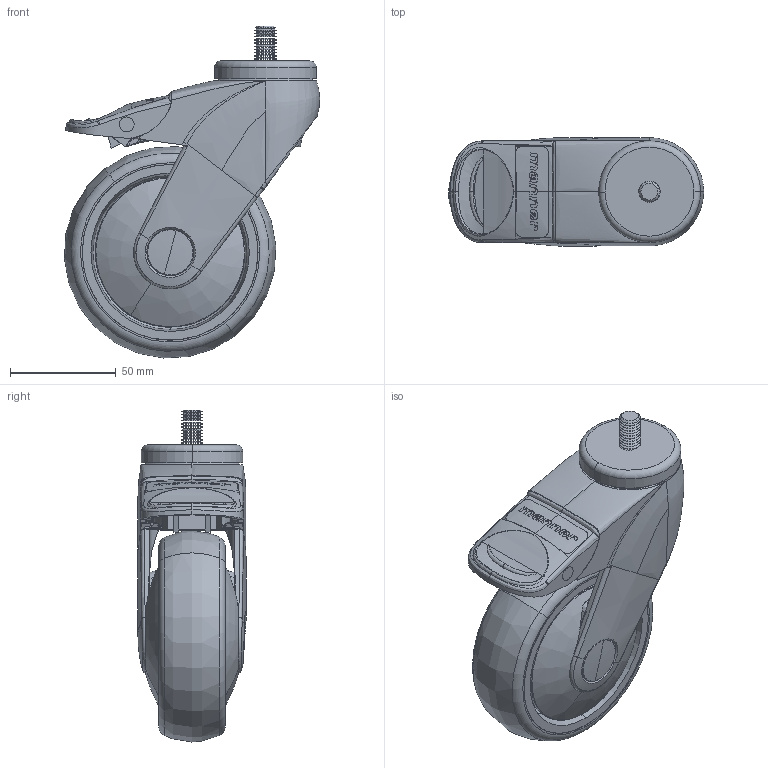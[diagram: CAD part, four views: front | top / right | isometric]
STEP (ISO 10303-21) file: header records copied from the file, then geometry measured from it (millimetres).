
FILE_DESCRIPTION (( 'STEP AP203' ), '1' );
FILE_NAME ('301775_STEP.STEP', '2011-06-20T05:44:38', ( '' ), ( '' ), 'SwSTEP 2.0', 'SolidWorks 2011', '' );
FILE_SCHEMA (( 'CONFIG_CONTROL_DESIGN' ));
Length unit declared in the file: millimetre
Products named in the file (1): 301775_STEP
Bounding box: 120.48 x 51.27 x 156.76 mm (x, y, z)
Surface area: 88879.4 mm2 (no closed solid volume)
Topology: 0 solids, 36 shells, 716 faces, 3540 edges, 2767 vertices
Faces by surface type: bspline 326, cylinder 126, plane 124, torus 72, cone 65, sphere 3
Entity records: 87523 total; most frequent: CARTESIAN_POINT 65212, ORIENTED_EDGE 5834, EDGE_CURVE 3529, VERTEX_POINT 2767, DIRECTION 2406, B_SPLINE_CURVE_WITH_KNOTS 2278, AXIS2_PLACEMENT_3D 901, EDGE_LOOP 739
